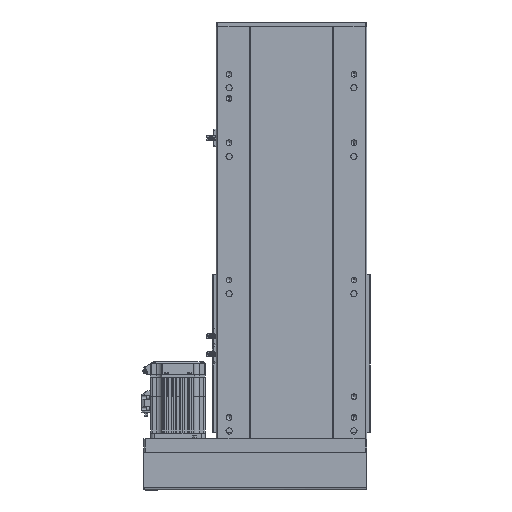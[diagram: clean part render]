
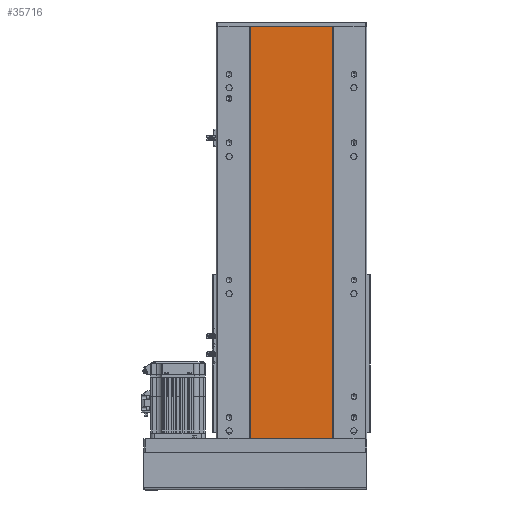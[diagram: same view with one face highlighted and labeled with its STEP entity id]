
A CAD part, front view. The second image highlights one B-rep face of the part: STEP entity #35716.
In plain terms, the highlighted planar face has unit normal (0, -1, 0).
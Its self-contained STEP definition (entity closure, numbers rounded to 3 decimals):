
#50 = CARTESIAN_POINT ( 'NONE',  ( 551.58, 155.016, 601. ) ) ;
#1585 = VECTOR ( 'NONE', #16294, 1000. ) ;
#1631 = LINE ( 'NONE', #12886, #25663 ) ;
#2762 = DIRECTION ( 'NONE',  ( 0., 0., 1. ) ) ;
#5548 = EDGE_LOOP ( 'NONE', ( #8951, #31385, #29055, #19276 ) ) ;
#6030 = CARTESIAN_POINT ( 'NONE',  ( 0., 155.016, 601. ) ) ;
#8043 = LINE ( 'NONE', #24828, #19638 ) ;
#8906 = VERTEX_POINT ( 'NONE', #26123 ) ;
#8951 = ORIENTED_EDGE ( 'NONE', *, *, #13846, .T. ) ;
#9461 = VERTEX_POINT ( 'NONE', #28376 ) ;
#9649 = EDGE_CURVE ( 'NONE', #38219, #8906, #15646, .T. ) ;
#12886 = CARTESIAN_POINT ( 'NONE',  ( 432.408, 155.016, 601. ) ) ;
#13190 = CARTESIAN_POINT ( 'NONE',  ( 551.58, 155.016, 0. ) ) ;
#13846 = EDGE_CURVE ( 'NONE', #9461, #23740, #8043, .T. ) ;
#15646 = LINE ( 'NONE', #28808, #1585 ) ;
#16294 = DIRECTION ( 'NONE',  ( 1., 0., 0. ) ) ;
#16303 = VECTOR ( 'NONE', #33501, 1000. ) ;
#17510 = DIRECTION ( 'NONE',  ( 1., 0., 0. ) ) ;
#19176 = DIRECTION ( 'NONE',  ( 0., 1., 0. ) ) ;
#19276 = ORIENTED_EDGE ( 'NONE', *, *, #22781, .T. ) ;
#19638 = VECTOR ( 'NONE', #17510, 1000. ) ;
#21745 = PLANE ( 'NONE',  #24402 ) ;
#22781 = EDGE_CURVE ( 'NONE', #38219, #9461, #1631, .T. ) ;
#23740 = VERTEX_POINT ( 'NONE', #13190 ) ;
#24402 = AXIS2_PLACEMENT_3D ( 'NONE', #6030, #19176, #2762 ) ;
#24828 = CARTESIAN_POINT ( 'NONE',  ( 0., 155.016, 0. ) ) ;
#25663 = VECTOR ( 'NONE', #32507, 1000. ) ;
#26123 = CARTESIAN_POINT ( 'NONE',  ( 551.58, 155.016, 601. ) ) ;
#28376 = CARTESIAN_POINT ( 'NONE',  ( 432.408, 155.016, 0. ) ) ;
#28808 = CARTESIAN_POINT ( 'NONE',  ( 0., 155.016, 601. ) ) ;
#29055 = ORIENTED_EDGE ( 'NONE', *, *, #9649, .F. ) ;
#31385 = ORIENTED_EDGE ( 'NONE', *, *, #38823, .F. ) ;
#32507 = DIRECTION ( 'NONE',  ( 0., 0., -1. ) ) ;
#33501 = DIRECTION ( 'NONE',  ( 0., 0., -1. ) ) ;
#35716 = ADVANCED_FACE ( 'NONE', ( #38354 ), #21745, .F. ) ;
#38219 = VERTEX_POINT ( 'NONE', #42635 ) ;
#38354 = FACE_OUTER_BOUND ( 'NONE', #5548, .T. ) ;
#38823 = EDGE_CURVE ( 'NONE', #8906, #23740, #39730, .T. ) ;
#39730 = LINE ( 'NONE', #50, #16303 ) ;
#42635 = CARTESIAN_POINT ( 'NONE',  ( 432.408, 155.016, 601. ) ) ;
